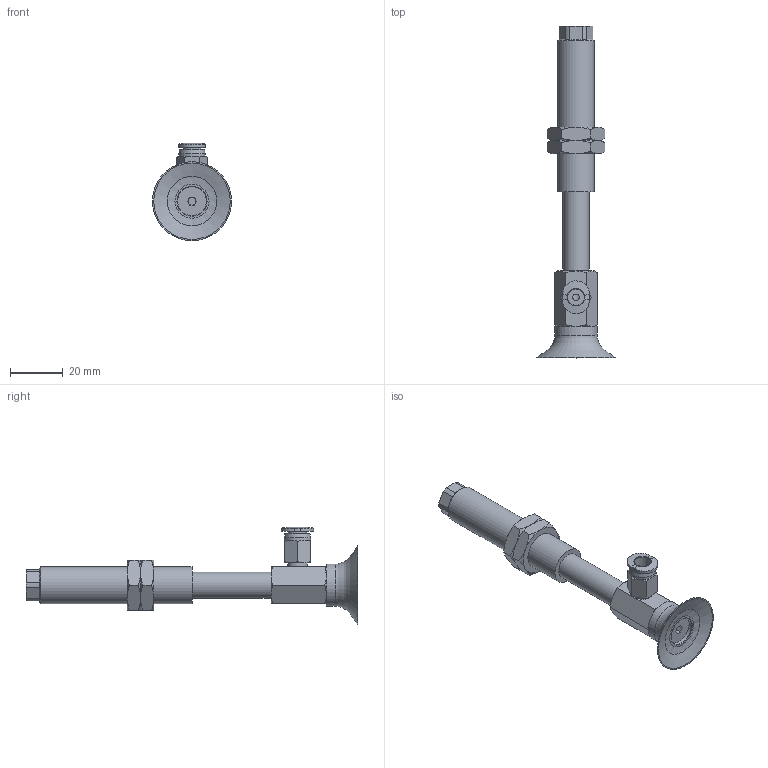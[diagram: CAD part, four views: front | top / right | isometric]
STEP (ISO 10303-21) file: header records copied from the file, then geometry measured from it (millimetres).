
FILE_DESCRIPTION(('STEP AP203'),'1');
FILE_NAME('-O.stp','2025-04-09T07:23:24',(' '),(' '),'Spatial InterOp 3D',' ',' ');
FILE_SCHEMA(('CONFIG_CONTROL_DESIGN'));
Length unit declared in the file: millimetre
Products named in the file (8): BNABPFYS-30-30-※-O; TN-PF-30-M6-NAPF; CONNECTOR-30-30; Nut-30-30-s; NAPFTS-30-30-FBODY; NAPFTS-30-30-MBODY; BPFG-30-※; PC-C_06-M5
Assembly tree (8 placements, depth 2):
  BNABPFYS-30-30-※-O
    TN-PF-30-M6-NAPF
    CONNECTOR-30-30
    Nut-30-30-s  x2
    NAPFTS-30-30-FBODY
    NAPFTS-30-30-MBODY
    BPFG-30-※
    PC-C_06-M5
Bounding box: 30 x 126 x 36.98 mm (x, y, z)
Volume: 19014 mm3; surface area: 15702.1 mm2
Topology: 7 solids, 10 shells, 196 faces, 406 edges, 245 vertices
Faces by surface type: plane 83, cone 67, cylinder 31, torus 7, bspline 5, revolution 3
Full cylindrical faces by diameter (mm): 3 x2, 4 x2, 4.134 x2, 4.917 x1, 5 x2, 6 x2, 7 x1, 7.4 x1, 8.2 x1, 10 x3, 11 x2, 12.917 x2, 14 x1, 16 x1
Entity records: 5239 total; most frequent: CARTESIAN_POINT 1471, DIRECTION 703, ORIENTED_EDGE 610, EDGE_CURVE 307, AXIS2_PLACEMENT_3D 301, EDGE_LOOP 250, VERTEX_POINT 213, FACE_OUTER_BOUND 143
